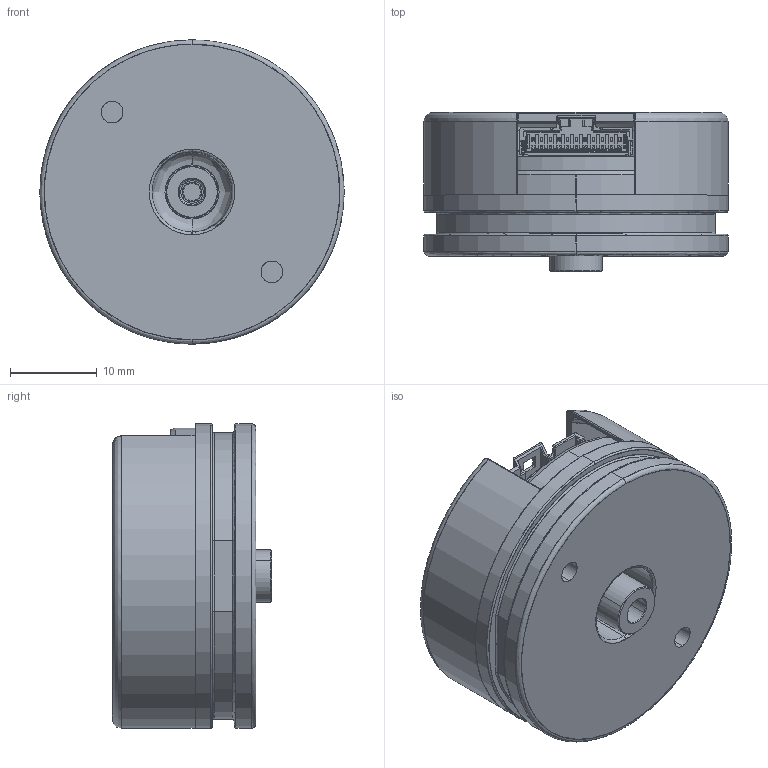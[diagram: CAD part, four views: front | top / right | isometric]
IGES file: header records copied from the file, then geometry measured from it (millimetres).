
Start section: SolidWorks IGES file using analytic representation for surfaces
Global section: file name: D:\CERAR\DOKUMENTACIJA-mehanskih-delov-RLSizdelkov\3D-izdelki-za-predstavitev\RMC35\RMC35-subass-01-RMA03A3A07mag-actuator.IGS; native system: SolidWorks 2016; preprocessor: SolidWorks 2016; author: cerar; date: 180919.150451; units: millimetre
Bounding box: 35 x 18.3 x 35 mm (x, y, z)
Surface area: 10404.3 mm2 (no closed solid volume)
Topology: 0 solids, 0 shells, 2481 faces, 15455 edges, 15422 vertices
Faces by surface type: bspline 1964, revolution 517
